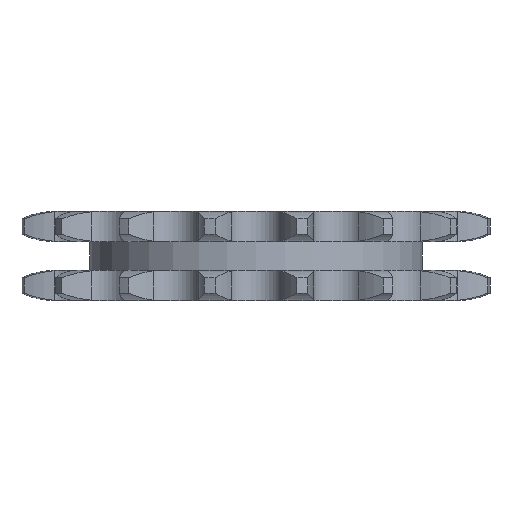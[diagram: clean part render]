
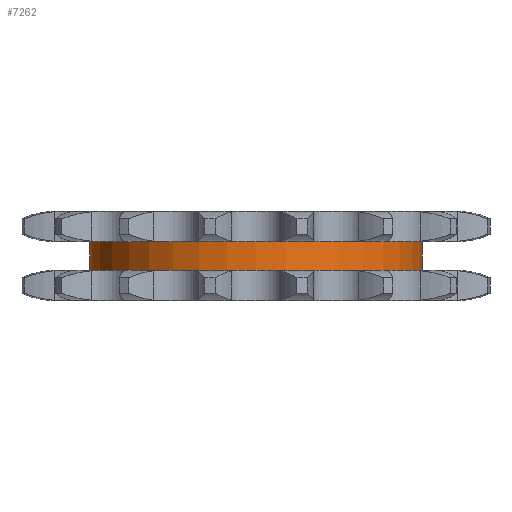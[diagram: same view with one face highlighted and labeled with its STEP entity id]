
A CAD part, left-side view. The second image highlights one B-rep face of the part: STEP entity #7262.
In plain terms, the highlighted cylindrical face has radius 15.503 mm (diameter 31.007 mm), a partial arc.
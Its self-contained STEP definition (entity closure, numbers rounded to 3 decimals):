
#1088=DIRECTION('',(0.,0.,-1.));
#1089=VECTOR('',#1088,2.7);
#1090=CARTESIAN_POINT('',(0.,15.503,1.35));
#1091=LINE('',#1090,#1089);
#1095=CARTESIAN_POINT('',(0.,0.,1.35));
#1096=DIRECTION('',(0.,0.,1.));
#1097=DIRECTION('',(0.,1.,0.));
#1098=AXIS2_PLACEMENT_3D('',#1095,#1096,#1097);
#1103=DIRECTION('',(0.,0.,-1.));
#1104=VECTOR('',#1103,2.7);
#1105=CARTESIAN_POINT('',(0.,-15.503,1.35));
#1106=LINE('',#1105,#1104);
#1110=CARTESIAN_POINT('',(0.,0.,-1.35));
#1111=DIRECTION('',(0.,0.,1.));
#1112=DIRECTION('',(0.,1.,0.));
#1113=AXIS2_PLACEMENT_3D('',#1110,#1111,#1112);
#5787=CARTESIAN_POINT('',(0.,15.503,1.35));
#5788=CARTESIAN_POINT('',(0.,15.503,-1.35));
#5789=VERTEX_POINT('',#5787);
#5790=VERTEX_POINT('',#5788);
#5791=CARTESIAN_POINT('',(0.,-15.503,1.35));
#5792=CARTESIAN_POINT('',(0.,-15.503,-1.35));
#5793=VERTEX_POINT('',#5791);
#5794=VERTEX_POINT('',#5792);
#7250=CARTESIAN_POINT('',(0.,0.,1.485));
#7251=DIRECTION('',(0.,0.,-1.));
#7252=DIRECTION('',(0.,-1.,0.));
#7253=AXIS2_PLACEMENT_3D('',#7250,#7251,#7252);
#7254=CYLINDRICAL_SURFACE('',#7253,15.503);
#7255=ORIENTED_EDGE('',*,*,#7240,.F.);
#7256=ORIENTED_EDGE('',*,*,#7230,.T.);
#7257=ORIENTED_EDGE('',*,*,#7244,.T.);
#7259=ORIENTED_EDGE('',*,*,#7258,.F.);
#7260=EDGE_LOOP('',(#7255,#7256,#7257,#7259));
#7261=FACE_OUTER_BOUND('',#7260,.F.);
#7262=ADVANCED_FACE('',(#7261),#7254,.T.);
#1099=CIRCLE('',#1098,15.503);
#1114=CIRCLE('',#1113,15.503);
#7230=EDGE_CURVE('',#5789,#5793,#1099,.T.);
#7240=EDGE_CURVE('',#5789,#5790,#1091,.T.);
#7244=EDGE_CURVE('',#5793,#5794,#1106,.T.);
#7258=EDGE_CURVE('',#5790,#5794,#1114,.T.);
